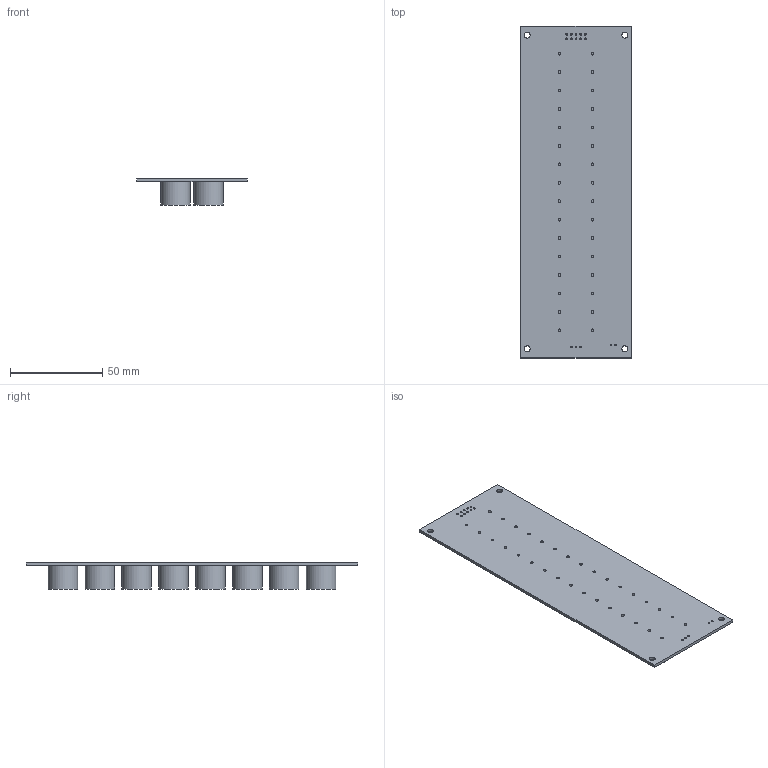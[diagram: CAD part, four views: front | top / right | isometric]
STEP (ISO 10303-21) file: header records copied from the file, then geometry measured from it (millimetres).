
FILE_DESCRIPTION(('Open CASCADE Model'),'2;1');
FILE_NAME('Open CASCADE Shape Model','2026-10-05T11:00:28',('Author'),( 'Open CASCADE'),'Open CASCADE STEP processor 7.9','Open CASCADE 7.9' ,'Unknown');
FILE_SCHEMA(('AUTOMOTIVE_DESIGN { 1 0 10303 214 1 1 1 1 }'));
Length unit declared in the file: millimetre
Products named in the file (3): panel_6f; pcb_6f; tx_6f_t1
Assembly tree (17 placements, depth 2):
  panel_6f
    pcb_6f
    tx_6f_t1  x16
Bounding box: 60 x 180 x 14.1 mm (x, y, z)
Volume: 57332.5 mm3; surface area: 39034.2 mm2
Topology: 17 solids, 17 shells, 105 faces, 213 edges, 142 vertices
Faces by surface type: cylinder 67, plane 38
Full cylindrical faces by diameter (mm): 0.8 x2, 1 x13, 1.5 x32, 3.2 x4, 16 x16
Entity records: 4872 total; most frequent: CARTESIAN_POINT 1306, DIRECTION 662, ORIENTED_EDGE 336, PCURVE 336, DEFINITIONAL_REPRESENTATION 336, LINE 296, VECTOR 296, AXIS2_PLACEMENT_3D 182
